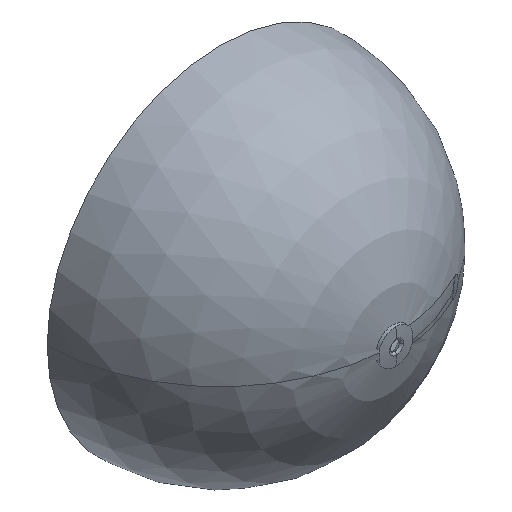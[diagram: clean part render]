
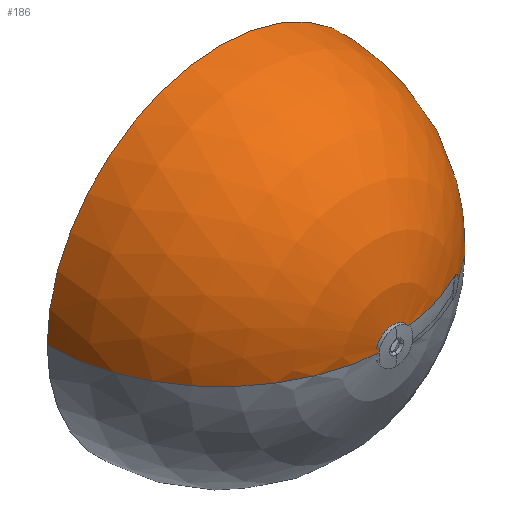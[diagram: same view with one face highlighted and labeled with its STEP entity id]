
A CAD part, isometric view. The second image highlights one B-rep face of the part: STEP entity #186.
In plain terms, the highlighted spherical face has radius 125 mm.
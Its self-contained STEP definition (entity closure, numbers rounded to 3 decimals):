
#6=CARTESIAN_POINT('',(0.,4025.,0.));
#7=DIRECTION('',(0.,-1.,0.));
#8=DIRECTION('',(1.,0.,0.));
#9=AXIS2_PLACEMENT_3D('',#6,#7,#8);
#26=CARTESIAN_POINT('',(0.,4025.,0.));
#27=DIRECTION('',(0.,0.,-1.));
#28=DIRECTION('',(-0.052,-0.999,0.));
#29=AXIS2_PLACEMENT_3D('',#26,#27,#28);
#41=CARTESIAN_POINT('',(58.605,3914.781,0.));
#42=DIRECTION('',(0.469,-0.883,0.));
#43=DIRECTION('',(0.883,0.469,0.));
#44=AXIS2_PLACEMENT_3D('',#41,#42,#43);
#46=CARTESIAN_POINT('',(0.,4025.,6.5));
#47=DIRECTION('',(0.,0.,-1.));
#48=DIRECTION('',(0.469,-0.883,0.));
#49=AXIS2_PLACEMENT_3D('',#46,#47,#48);
#51=CARTESIAN_POINT('',(0.,3900.169,0.));
#52=DIRECTION('',(0.,-1.,0.));
#53=DIRECTION('',(0.,0.,1.));
#54=AXIS2_PLACEMENT_3D('',#51,#52,#53);
#56=CARTESIAN_POINT('',(0.,4025.,0.));
#57=DIRECTION('',(0.,0.,1.));
#58=DIRECTION('',(0.515,-0.857,0.));
#59=AXIS2_PLACEMENT_3D('',#56,#57,#58);
#101=CARTESIAN_POINT('',(-125.,4025.,0.));
#102=CARTESIAN_POINT('',(125.,4025.,0.));
#103=VERTEX_POINT('',#101);
#104=VERTEX_POINT('',#102);
#109=CARTESIAN_POINT('',(-6.5,3900.169,0.));
#110=VERTEX_POINT('',#109);
#113=CARTESIAN_POINT('',(0.,3900.169,6.5));
#114=VERTEX_POINT('',#113);
#121=CARTESIAN_POINT('',(58.605,3914.781,6.5));
#122=CARTESIAN_POINT('',(64.344,3917.832,0.));
#123=VERTEX_POINT('',#121);
#124=VERTEX_POINT('',#122);
#170=CARTESIAN_POINT('',(0.,4025.,0.));
#171=DIRECTION('',(0.,-1.,0.));
#172=DIRECTION('',(1.,0.,0.));
#173=AXIS2_PLACEMENT_3D('',#170,#171,#172);
#174=SPHERICAL_SURFACE('',#173,125.);
#176=ORIENTED_EDGE('',*,*,#175,.T.);
#178=ORIENTED_EDGE('',*,*,#177,.T.);
#180=ORIENTED_EDGE('',*,*,#179,.T.);
#181=ORIENTED_EDGE('',*,*,#161,.T.);
#182=ORIENTED_EDGE('',*,*,#140,.F.);
#183=ORIENTED_EDGE('',*,*,#158,.F.);
#184=EDGE_LOOP('',(#176,#178,#180,#181,#182,#183));
#185=FACE_OUTER_BOUND('',#184,.F.);
#186=ADVANCED_FACE('',(#185),#174,.T.);
#10=CIRCLE('',#9,125.);
#30=CIRCLE('',#29,125.);
#45=CIRCLE('',#44,6.5);
#50=CIRCLE('',#49,124.831);
#55=CIRCLE('',#54,6.5);
#60=CIRCLE('',#59,125.);
#140=EDGE_CURVE('',#104,#103,#10,.T.);
#158=EDGE_CURVE('',#124,#104,#60,.T.);
#161=EDGE_CURVE('',#110,#103,#30,.T.);
#175=EDGE_CURVE('',#124,#123,#45,.T.);
#177=EDGE_CURVE('',#123,#114,#50,.T.);
#179=EDGE_CURVE('',#114,#110,#55,.T.);
